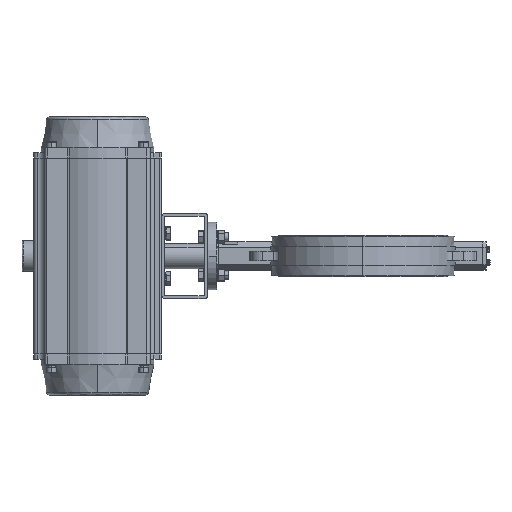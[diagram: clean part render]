
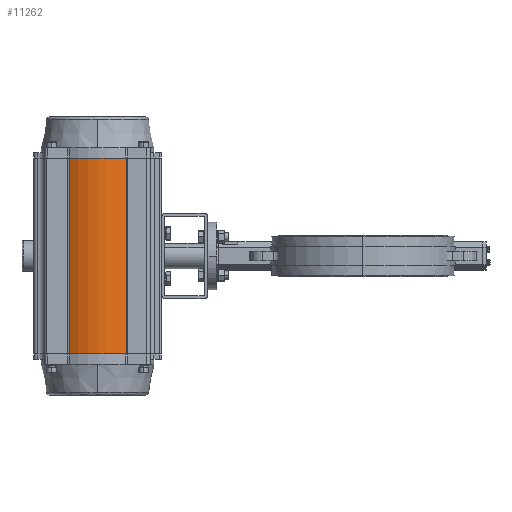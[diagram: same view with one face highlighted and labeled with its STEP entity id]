
A CAD part, left-side view. The second image highlights one B-rep face of the part: STEP entity #11262.
In plain terms, the highlighted cylindrical face has radius 147 mm (diameter 294 mm), a partial arc.
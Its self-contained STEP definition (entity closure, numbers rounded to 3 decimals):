
#980 = EDGE_LOOP ( 'NONE', ( #5853, #49911, #20360, #49301 ) ) ;
#1966 = CARTESIAN_POINT ( 'NONE',  ( 0., 685., -253. ) ) ;
#3603 = CIRCLE ( 'NONE', #54256, 147. ) ;
#3918 = VECTOR ( 'NONE', #43135, 1000. ) ;
#5853 = ORIENTED_EDGE ( 'NONE', *, *, #38246, .T. ) ;
#6928 = EDGE_CURVE ( 'NONE', #39503, #41464, #3603, .T. ) ;
#7819 = CIRCLE ( 'NONE', #55687, 147. ) ;
#11262 = ADVANCED_FACE ( 'NONE', ( #50558 ), #45149, .F. ) ;
#14589 = DIRECTION ( 'NONE',  ( 1., 0., 0. ) ) ;
#20360 = ORIENTED_EDGE ( 'NONE', *, *, #6928, .F. ) ;
#20549 = VECTOR ( 'NONE', #51854, 1000. ) ;
#22160 = CARTESIAN_POINT ( 'NONE',  ( -127.338, 611.555, -912.622 ) ) ;
#23269 = DIRECTION ( 'NONE',  ( 0., 0., 1. ) ) ;
#24253 = EDGE_CURVE ( 'NONE', #26906, #39503, #25495, .T. ) ;
#25495 = LINE ( 'NONE', #26320, #3918 ) ;
#25611 = AXIS2_PLACEMENT_3D ( 'NONE', #1966, #23269, #14589 ) ;
#26320 = CARTESIAN_POINT ( 'NONE',  ( -127.338, 758.445, -253. ) ) ;
#26906 = VERTEX_POINT ( 'NONE', #47047 ) ;
#27082 = DIRECTION ( 'NONE',  ( 0., 0., 1. ) ) ;
#33181 = CARTESIAN_POINT ( 'NONE',  ( -127.338, 611.555, 253. ) ) ;
#33390 = VERTEX_POINT ( 'NONE', #33181 ) ;
#35047 = CARTESIAN_POINT ( 'NONE',  ( 0., 685., 253. ) ) ;
#37522 = CARTESIAN_POINT ( 'NONE',  ( 0., 685., -253. ) ) ;
#38246 = EDGE_CURVE ( 'NONE', #26906, #33390, #7819, .T. ) ;
#39423 = LINE ( 'NONE', #22160, #20549 ) ;
#39503 = VERTEX_POINT ( 'NONE', #55825 ) ;
#41464 = VERTEX_POINT ( 'NONE', #46547 ) ;
#43135 = DIRECTION ( 'NONE',  ( 0., 0., -1. ) ) ;
#44467 = DIRECTION ( 'NONE',  ( 1., 0., 0. ) ) ;
#45149 = CYLINDRICAL_SURFACE ( 'NONE', #25611, 147. ) ;
#46547 = CARTESIAN_POINT ( 'NONE',  ( -127.338, 611.555, -253. ) ) ;
#47047 = CARTESIAN_POINT ( 'NONE',  ( -127.338, 758.445, 253. ) ) ;
#48450 = EDGE_CURVE ( 'NONE', #41464, #33390, #39423, .T. ) ;
#49301 = ORIENTED_EDGE ( 'NONE', *, *, #24253, .F. ) ;
#49911 = ORIENTED_EDGE ( 'NONE', *, *, #48450, .F. ) ;
#50558 = FACE_OUTER_BOUND ( 'NONE', #980, .T. ) ;
#51172 = DIRECTION ( 'NONE',  ( 1., 0., 0. ) ) ;
#51854 = DIRECTION ( 'NONE',  ( 0., 0., 1. ) ) ;
#54256 = AXIS2_PLACEMENT_3D ( 'NONE', #37522, #55555, #51172 ) ;
#55555 = DIRECTION ( 'NONE',  ( 0., 0., 1. ) ) ;
#55687 = AXIS2_PLACEMENT_3D ( 'NONE', #35047, #27082, #44467 ) ;
#55825 = CARTESIAN_POINT ( 'NONE',  ( -127.338, 758.445, -253. ) ) ;
